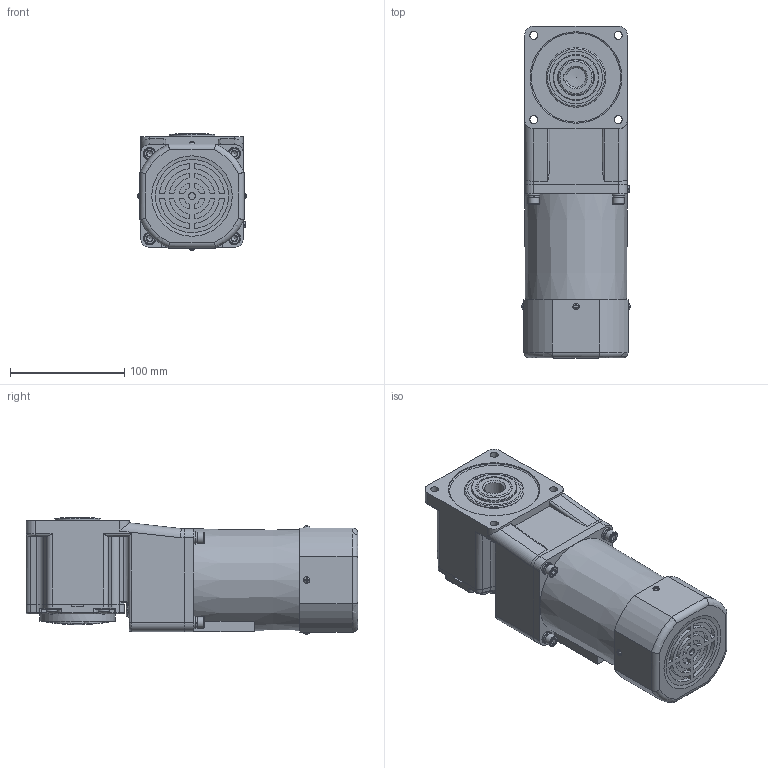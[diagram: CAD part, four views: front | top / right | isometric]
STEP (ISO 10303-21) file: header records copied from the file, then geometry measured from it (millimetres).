
FILE_DESCRIPTION(/* description */ (''),/* implementation_level */ '2;1');
FILE_NAME(/* name */ '90+中空直角-调速风叶-90W.stp',/* time_stamp */ '2022-09-27T12:49:02+08:00',/* author */ (''),/* organization */ (''),/* preprocessor_version */ 'ST-DEVELOPER v16.7',/* originating_system */ 'SIEMENS PLM Software NX 1899',/* authorisation */ '');
FILE_SCHEMA (('AP203_CONFIGURATION_CONTROLLED_3D_DESIGN_OF_MECHANICAL_PARTS_AND_ASSEMBLIES_MIM_LF { 1 0 10303 403 2 1 2}'));
Length unit declared in the file: millimetre
Products named in the file (1): yf1835C809DDufz2
Bounding box: 94.8 x 290 x 101.9 mm (x, y, z)
Volume: 1989545.6 mm3; surface area: 168154.2 mm2
Topology: 15 solids, 16 shells, 759 faces, 1791 edges, 1102 vertices
Faces by surface type: plane 397, cylinder 232, torus 63, cone 50, sphere 10, bspline 7
Full cylindrical faces by diameter (mm): 3.3 x2, 4.5 x2, 5 x4, 5.5 x4, 5.6 x1, 5.795 x4, 6 x1, 6.4 x4, 7 x9, 9.5 x4, 10 x4, 11 x4, 30 x2, 40 x1, 47 x1, 47.5 x1, 52 x1, 60 x1, 60.5 x1, 66 x1, 67 x1, 76 x1, 80 x1, 86 x2
Entity records: 23381 total; most frequent: CARTESIAN_POINT 5354, DIRECTION 3546, ORIENTED_EDGE 3228, EDGE_CURVE 1614, AXIS2_PLACEMENT_3D 1365, VERTEX_POINT 1050, EDGE_LOOP 942, LINE 816
